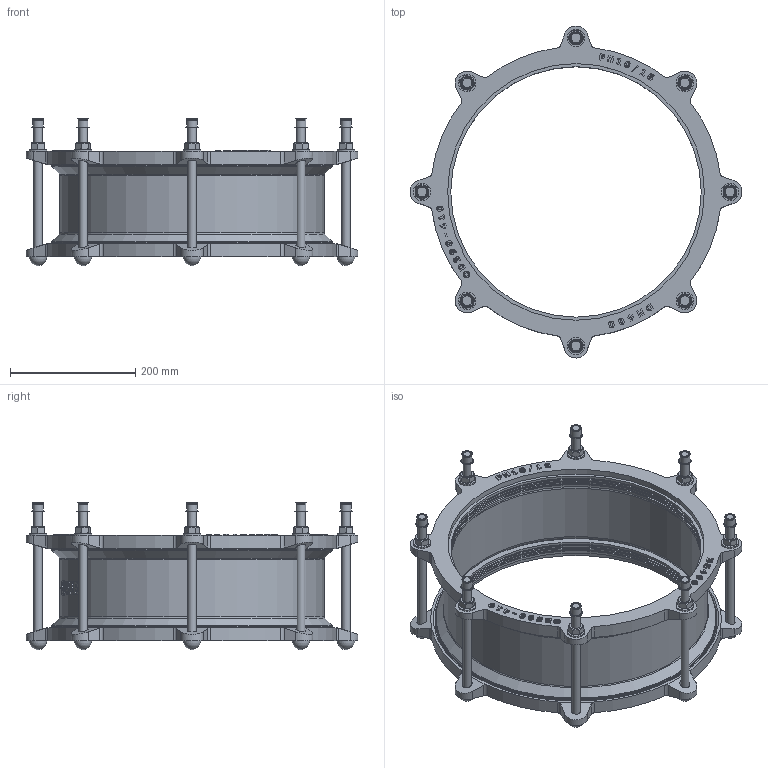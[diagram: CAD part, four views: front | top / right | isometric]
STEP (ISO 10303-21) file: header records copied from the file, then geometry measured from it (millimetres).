
FILE_DESCRIPTION(('STEP AP203'), '1');
FILE_NAME('Cîåäèíèòåëüíàÿ ìóôòà äëÿ æåñòêèõ òðóá', '', ('UNSPECIFIED'), ('UNSPECIFIED'), 'C3D Converter', 'C3D Toolkit', '');
FILE_SCHEMA(('CONFIG_CONTROL_DESIGN'));
Length unit declared in the file: millimetre
Assembly tree (37 placements, depth 2):
  (unnamed)
    (unnamed)
    (unnamed)  x8
    (unnamed)  x8
    (unnamed)  x8
    (unnamed)  x8
    (unnamed)
    (unnamed)
    (unnamed)  x2
Bounding box: 530 x 530 x 235.4 mm (x, y, z)
Volume: 3638548.5 mm3; surface area: 1122655.7 mm2
Topology: 41 solids, 41 shells, 973 faces, 2381 edges, 1558 vertices
Faces by surface type: plane 372, extrusion 332, cylinder 173, cone 62, torus 26, sphere 8
Full cylindrical faces by diameter (mm): 14 x24, 15 x8, 16 x16, 16.8 x8, 19.6 x8, 23.29 x1, 28 x8, 400 x8, 405 x6, 410 x3, 416 x2, 422 x3, 449 x2, 452 x4
Entity records: 35650 total; most frequent: CARTESIAN_POINT 13546, ORIENTED_EDGE 3766, DIRECTION 2529, EDGE_CURVE 1883, VERTEX_POINT 1284, VECTOR 1191, B_SPLINE_CURVE_WITH_KNOTS 1102, EDGE_LOOP 917
